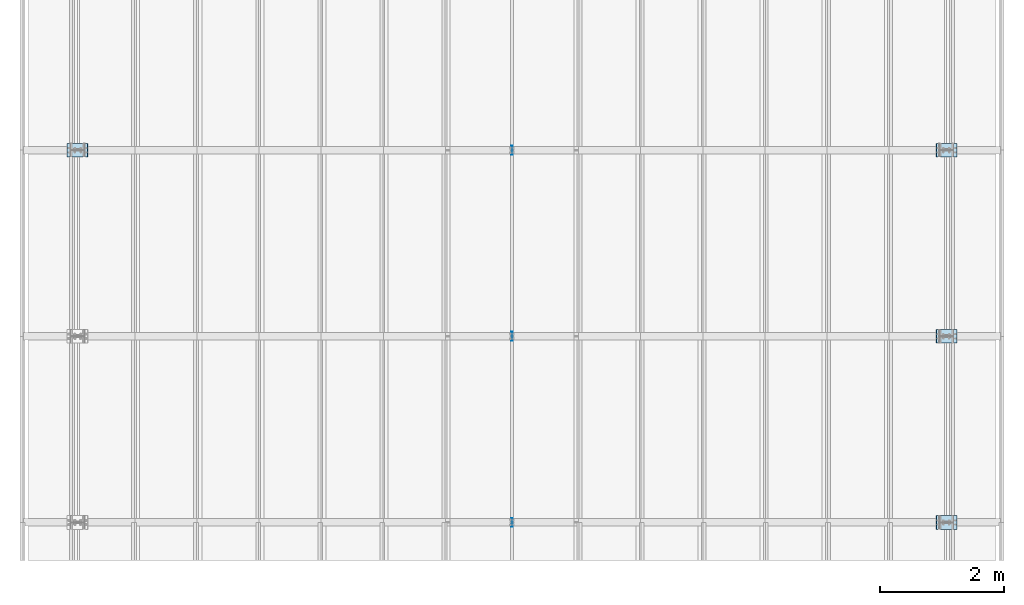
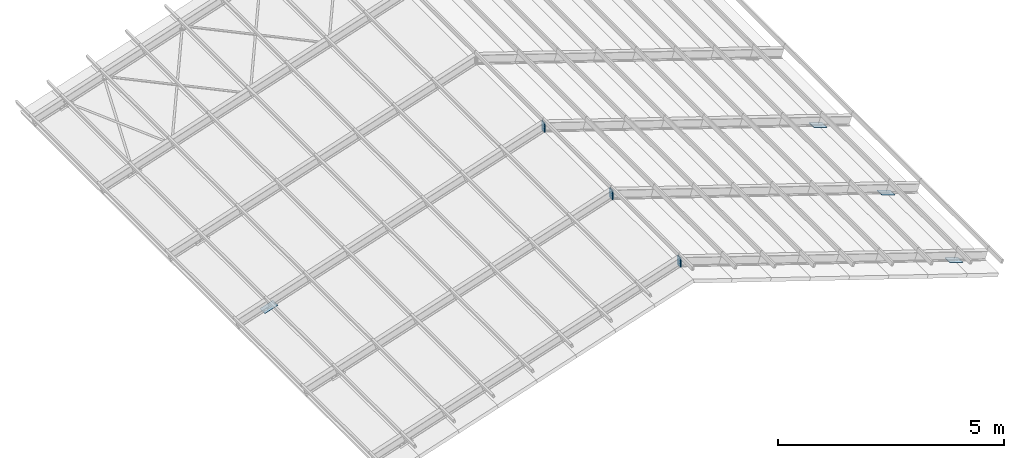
# One storey, part 5 of 53: 10 plates.
"""IFC4 building model written with IfcOpenShell, lengths in metres."""

import ifcopenshell
import ifcopenshell.guid

model = None  # the IFC model being written
_history = None  # IfcOwnerHistory: only IFC2X3 demands one
_inside = {}  # id of a spatial element -> (the spatial element, [elements in it])
_under = {}  # id of a project, library or spatial element -> (it, [spatial elements below it])
_declared = {}  # id of a project -> (the project, [libraries it declares])
_typed = {}  # id of a type object -> (the type object, [elements of that type])
_made_of = {}  # id of a material, layer set ... -> (it, [elements and type objects made of it])


def new_model(schema):
    """Start an empty IFC model of exactly this schema.

    Asked for "IFC4X3", IfcOpenShell would pick the latest addendum, in which some entities
    have other attributes; the version numbers below select the first issue.
    IFC2X3 requires an IfcOwnerHistory on every rooted entity: one is made here for all.
    """
    global model, _history
    if schema == "IFC4X3":
        model = ifcopenshell.file(schema_version=(4, 3, 0, 0))
    else:
        model = ifcopenshell.file(schema=schema)
    _inside.clear()
    _under.clear()
    _declared.clear()
    _typed.clear()
    _made_of.clear()
    _history = None
    if model.schema == "IFC2X3":
        org = make("IfcOrganization", Name="unknown")
        user = make(
            "IfcPersonAndOrganization",
            ThePerson=make("IfcPerson", FamilyName="unknown"),
            TheOrganization=org,
        )
        app = make(
            "IfcApplication",
            ApplicationDeveloper=org,
            Version="unknown",
            ApplicationFullName="unknown",
            ApplicationIdentifier="unknown",
        )
        _history = make(
            "IfcOwnerHistory",
            OwningUser=user,
            OwningApplication=app,
            ChangeAction="ADDED",
            CreationDate=0,
        )
    return model


def make(cls, **values):
    """One entity of the class cls with the attributes given. An attribute that is None is left unset."""
    return model.create_entity(
        cls, **{name: value for name, value in values.items() if value is not None}
    )


def rooted(cls, **values):
    """An entity with a GlobalId (a new one), such as an element, a storey or a relation."""
    return make(cls, GlobalId=ifcopenshell.guid.new(), OwnerHistory=_history, **values)


def si_unit(unit_type, name, prefix=None):
    """IfcSIUnit, for example si_unit("LENGTHUNIT", "METRE", prefix="MILLI")."""
    return make("IfcSIUnit", UnitType=unit_type, Prefix=prefix, Name=name)


def assignment(units):
    """IfcUnitAssignment: the units of a project."""
    return None if units is None else make("IfcUnitAssignment", Units=units)


def point(xyz):
    """IfcCartesianPoint."""
    return None if xyz is None else make("IfcCartesianPoint", Coordinates=xyz)


def direction(xyz):
    """IfcDirection."""
    return None if xyz is None else make("IfcDirection", DirectionRatios=xyz)


def frame(location, z_axis=None, x_axis=None):
    """IfcAxis2Placement3D, a coordinate frame: its origin and axes. An axis left out is left unset."""
    return make(
        "IfcAxis2Placement3D",
        Location=point(location),
        Axis=direction(z_axis),
        RefDirection=direction(x_axis),
    )


def origin_with_axes():
    """The frame at (0, 0, 0) with the z axis (0, 0, 1) and the x axis (1, 0, 0) written out."""
    return frame((0.0, 0.0, 0.0), z_axis=(0.0, 0.0, 1.0), x_axis=(1.0, 0.0, 0.0))


def place(relative_to, where):
    """IfcLocalPlacement: puts the frame where relative to a parent placement (None: the world)."""
    return make(
        "IfcLocalPlacement", PlacementRelTo=relative_to, RelativePlacement=where
    )


def context(
    kind, dimensions, precision=None, world=None, true_north=None, identifier=None
):
    """IfcGeometricRepresentationContext, for example the 3D "Model" context."""
    return make(
        "IfcGeometricRepresentationContext",
        ContextIdentifier=identifier,
        ContextType=kind,
        CoordinateSpaceDimension=dimensions,
        Precision=precision,
        WorldCoordinateSystem=world,
        TrueNorth=true_north,
    )


def project(units=None, contexts=None):
    """IfcProject with its units and contexts."""
    return rooted(
        "IfcProject",
        Name="project",
        RepresentationContexts=contexts,
        UnitsInContext=assignment(units),
    )


def spatial(cls, under=None, at=None, **own):
    """A site, building, storey or space (cls), placed at a placement, below another one or the project."""
    s = rooted(cls, ObjectPlacement=at, **own)
    if under is not None:
        _under.setdefault(under.id(), (under, []))[1].append(s)
    return s


def polyline(points):
    """IfcPolyline through the points."""
    return make("IfcPolyline", Points=[point(p) for p in points])


def outline(outer, holes=None, kind="AREA"):
    """IfcArbitraryClosedProfileDef: a profile drawn as a closed curve; with holes, ...WithVoids."""
    if holes is None:
        return make("IfcArbitraryClosedProfileDef", ProfileType=kind, OuterCurve=outer)
    return make(
        "IfcArbitraryProfileDefWithVoids",
        ProfileType=kind,
        OuterCurve=outer,
        InnerCurves=holes,
    )


def extrude(swept, where, along, depth):
    """IfcExtrudedAreaSolid: the profile swept, set in the frame where, extruded along a direction by depth."""
    return make(
        "IfcExtrudedAreaSolid",
        SweptArea=swept,
        Position=where,
        ExtrudedDirection=direction(along),
        Depth=depth,
    )


def shape(context_of_items, identifier, shape_type, items):
    """IfcShapeRepresentation: the items that make up one representation, for example the "Body"."""
    return make(
        "IfcShapeRepresentation",
        ContextOfItems=context_of_items,
        RepresentationIdentifier=identifier,
        RepresentationType=shape_type,
        Items=items,
    )


def made_of(thing, what):
    """Note that an element or type object is made of a material, layer set ...; save() writes the relation."""
    if what is not None:
        _made_of.setdefault(what.id(), (what, []))[1].append(thing)
    return thing


def type_object(cls, material=None, **own):
    """A type object (cls), such as IfcWallType, which elements share."""
    return made_of(rooted(cls, **own), material)


def element(
    cls,
    number,
    at=None,
    inside=None,
    cuts=None,
    type_object=None,
    material=None,
    context=None,
    identifier="Body",
    shape_type=None,
    held_by="IfcProductDefinitionShape",
    body=None,
    shapes=None,
    **own,
):
    """One element of the class cls, such as IfcWall. Its Tag is "e" and its number.

    at: its placement. inside: the storey or other place that contains it. cuts: it is an
    opening in that element (IfcRelVoidsElement). A single representation is given by context,
    identifier, shape_type and body (its items); several are given by shapes. held_by: the class
    of the entity that holds the representations. save() writes the other relations.
    """
    e = rooted(cls, Tag="e%d" % number, ObjectPlacement=at, **own)
    if body is not None:
        shapes = [shape(context, identifier, shape_type, body)]
    if shapes is not None:
        e.Representation = make(held_by, Representations=shapes)
    if inside is not None:
        _inside.setdefault(inside.id(), (inside, []))[1].append(e)
    if cuts is not None:
        rooted(
            "IfcRelVoidsElement", RelatingBuildingElement=cuts, RelatedOpeningElement=e
        )
    if type_object is not None:
        _typed.setdefault(type_object.id(), (type_object, []))[1].append(e)
    return made_of(e, material)


def aggregate(whole, parts):
    """IfcRelAggregates: a whole, such as a stair, and the parts it consists of."""
    return rooted("IfcRelAggregates", RelatingObject=whole, RelatedObjects=parts)


def save(model, path):
    """Write the relations noted so far, then the file.

    IfcRelAggregates (storeys below a building ...), IfcRelContainedInSpatialStructure (elements
    in a storey), IfcRelDefinesByType, IfcRelAssociatesMaterial and IfcRelDeclares: one each for
    every whole, place, type object, material and project.
    """
    for whole, parts in _under.values():
        aggregate(whole, parts)
    for where, things in _inside.values():
        rooted(
            "IfcRelContainedInSpatialStructure",
            RelatedElements=things,
            RelatingStructure=where,
        )
    for kind, things in _typed.values():
        rooted("IfcRelDefinesByType", RelatedObjects=things, RelatingType=kind)
    for what, things in _made_of.values():
        rooted("IfcRelAssociatesMaterial", RelatedObjects=things, RelatingMaterial=what)
    for by, libraries in _declared.values():
        rooted("IfcRelDeclares", RelatingContext=by, RelatedDefinitions=libraries)
    model.write(path)


model = new_model("IFC4")

# Units and contexts
model_context = context("Model", 3, precision=1e-05, world=origin_with_axes())
ifc_project = project(units=[si_unit("LENGTHUNIT", "METRE"), si_unit("AREAUNIT", "SQUARE_METRE"), si_unit("VOLUMEUNIT", "CUBIC_METRE"), si_unit("MASSUNIT", "GRAM", prefix="KILO"), si_unit("TIMEUNIT", "SECOND"), si_unit("PLANEANGLEUNIT", "RADIAN"), si_unit("SOLIDANGLEUNIT", "STERADIAN"), si_unit("THERMODYNAMICTEMPERATUREUNIT", "DEGREE_CELSIUS")], contexts=[model_context])

# Site, building, storey
placement_1 = place(None, origin_with_axes())
site = spatial("IfcSite", under=ifc_project, at=placement_1, Name="Italia", CompositionType="ELEMENT")
building = spatial("IfcBuilding", under=site, at=placement_1, Name="Capannone", CompositionType="ELEMENT")
storey_placement = place(None, frame((0.0, 0.0, 5.550000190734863), z_axis=(0.0, 0.0, 1.0), x_axis=(1.0, 0.0, 0.0)))
storey = spatial("IfcBuildingStorey", under=building, at=storey_placement, Name="Storey 1", CompositionType="ELEMENT", Elevation=5.550000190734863)

# Plates
plate_type_1 = type_object("IfcPlateType", Name="Collegamenti -1142_-1128 -1143_-1130 -1144_-1132 -1145_-1134 -1146_-1136 -1147_-1138", PredefinedType="SHEET")
placement_2 = place(placement_1, origin_with_axes())
plate_1_placement = place(placement_2, origin_with_axes())
element("IfcPlate", 1, at=plate_1_placement, inside=storey, type_object=plate_type_1, Name="Collegamenti -1142_-1128 -1143_-1130 -1144_-1132 -1145_-1134 -1146_-1136 -1147_-1138", context=model_context, shape_type="SweptSolid", body=[
    extrude(outline(polyline([(0.0, 0.0), (-0.14, 0.0), (-0.14, 0.25262), (0.0, 0.25262), (0.0, 0.0)])), frame((7.015, -0.07, 7.84507), z_axis=(-1.0, 0.0, 0.0), x_axis=(0.0, -1.0, 0.0)), (0.0, 0.0, 1.0), 0.0149999),
])
plate_type_2 = type_object("IfcPlateType", Name="Collegamenti -1142_-1128 -1143_-1130 -1144_-1132 -1145_-1134 -1146_-1136 -1147_-1138", PredefinedType="SHEET")
plate_2_placement = place(placement_2, origin_with_axes())
element("IfcPlate", 2, at=plate_2_placement, inside=storey, type_object=plate_type_2, Name="Collegamenti -1142_-1128 -1143_-1130 -1144_-1132 -1145_-1134 -1146_-1136 -1147_-1138", context=model_context, shape_type="SweptSolid", body=[
    extrude(outline(polyline([(0.0, 0.0), (-0.14, 0.0), (-0.14, 0.252625), (0.0, 0.252625), (0.0, 0.0)])), frame((7.0, -0.07, 7.84507), z_axis=(-1.0, 0.0, 0.0), x_axis=(0.0, -1.0, 0.0)), (0.0, 0.0, 1.0), 0.0149999),
])
plate_type_3 = type_object("IfcPlateType", Name="Collegamenti -1142_-1128 -1143_-1130 -1144_-1132 -1145_-1134 -1146_-1136 -1147_-1138", PredefinedType="SHEET")
plate_3_placement = place(placement_2, origin_with_axes())
element("IfcPlate", 3, at=plate_3_placement, inside=storey, type_object=plate_type_3, Name="Collegamenti -1142_-1128 -1143_-1130 -1144_-1132 -1145_-1134 -1146_-1136 -1147_-1138", context=model_context, shape_type="SweptSolid", body=[
    extrude(outline(polyline([(0.0, 0.0), (-0.14, 0.0), (-0.14, 0.25262), (0.0, 0.25262), (0.0, 0.0)])), frame((7.015, 2.93, 7.84507), z_axis=(-1.0, 0.0, -3.1788415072e-05), x_axis=(0.0, -1.0, 0.0)), (0.0, 0.0, 1.0), 0.0150003),
])
plate_type_4 = type_object("IfcPlateType", Name="Collegamenti -1142_-1128 -1143_-1130 -1144_-1132 -1145_-1134 -1146_-1136 -1147_-1138", PredefinedType="SHEET")
plate_4_placement = place(placement_2, origin_with_axes())
element("IfcPlate", 4, at=plate_4_placement, inside=storey, type_object=plate_type_4, Name="Collegamenti -1142_-1128 -1143_-1130 -1144_-1132 -1145_-1134 -1146_-1136 -1147_-1138", context=model_context, shape_type="SweptSolid", body=[
    extrude(outline(polyline([(0.0, 0.0), (-0.14, 0.0), (-0.14, 0.252625), (0.0, 0.252625), (0.0, 0.0)])), frame((7.0, 2.93, 7.84507), z_axis=(-1.0, 0.0, 0.0), x_axis=(0.0, -1.0, 0.0)), (0.0, 0.0, 1.0), 0.0150003),
])
plate_type_5 = type_object("IfcPlateType", Name="Collegamenti -1142_-1128 -1143_-1130 -1144_-1132 -1145_-1134 -1146_-1136 -1147_-1138", PredefinedType="SHEET")
plate_5_placement = place(placement_2, origin_with_axes())
element("IfcPlate", 5, at=plate_5_placement, inside=storey, type_object=plate_type_5, Name="Collegamenti -1142_-1128 -1143_-1130 -1144_-1132 -1145_-1134 -1146_-1136 -1147_-1138", context=model_context, shape_type="SweptSolid", body=[
    extrude(outline(polyline([(0.0, 0.0), (-0.14, 0.0), (-0.14, 0.25262), (0.0, 0.25262), (0.0, 0.0)])), frame((7.015, 5.93, 7.84507), z_axis=(-1.0, 0.0, -3.1788415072e-05), x_axis=(0.0, -1.0, 0.0)), (0.0, 0.0, 1.0), 0.0150003),
])
plate_type_6 = type_object("IfcPlateType", Name="Collegamenti -1142_-1128 -1143_-1130 -1144_-1132 -1145_-1134 -1146_-1136 -1147_-1138", PredefinedType="SHEET")
plate_6_placement = place(placement_2, origin_with_axes())
element("IfcPlate", 6, at=plate_6_placement, inside=storey, type_object=plate_type_6, Name="Collegamenti -1142_-1128 -1143_-1130 -1144_-1132 -1145_-1134 -1146_-1136 -1147_-1138", context=model_context, shape_type="SweptSolid", body=[
    extrude(outline(polyline([(0.0, 0.0), (-0.14, 0.0), (-0.14, 0.252625), (0.0, 0.252625), (0.0, 0.0)])), frame((7.0, 5.93, 7.84507), z_axis=(-1.0, 0.0, 0.0), x_axis=(0.0, -1.0, 0.0)), (0.0, 0.0, 1.0), 0.0150003),
])
plate_type_7 = type_object("IfcPlateType", Name="Collegamenti 0101_0001 0103_0003 0105_0005 0107_0007 0109_0009 0111_0011", PredefinedType="SHEET")
plate_7_placement = place(placement_2, origin_with_axes())
element("IfcPlate", 7, at=plate_7_placement, inside=storey, type_object=plate_type_7, Name="Collegamenti 0101_0001 0103_0003 0105_0005 0107_0007 0109_0009 0111_0011", context=model_context, shape_type="SweptSolid", body=[
    extrude(outline(polyline([(0.0, 0.0), (0.22, 0.0), (0.22, -0.34504), (0.0, -0.34504), (0.0, 0.0)])), frame((0.163898, 6.11, 5.58806), z_axis=(-0.312147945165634, 0.0, 0.950033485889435), x_axis=(0.0, -1.0, 0.0)), (0.0, 0.0, 1.0), 0.0150003),
])
plate_type_8 = type_object("IfcPlateType", Name="Collegamenti 0102_0002 0104_0004 0106_0006 0108_0008 0110_0010 0112_0012", PredefinedType="SHEET")
plate_8_placement = place(placement_2, origin_with_axes())
element("IfcPlate", 8, at=plate_8_placement, inside=storey, type_object=plate_type_8, Name="Collegamenti 0102_0002 0104_0004 0106_0006 0108_0008 0110_0010 0112_0012", context=model_context, shape_type="SweptSolid", body=[
    extrude(outline(polyline([(0.0, 0.0), (-0.22, 0.0), (-0.22, 0.34504), (0.0, 0.34504), (0.0, 0.0)])), frame((14.1639, 0.11, 5.48036), z_axis=(0.3121717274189, 0.0, 0.950025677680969), x_axis=(0.0, 1.0, 0.0)), (0.0, 0.0, 1.0), 0.0149999),
])
plate_type_9 = type_object("IfcPlateType", Name="Collegamenti 0102_0002 0104_0004 0106_0006 0108_0008 0110_0010 0112_0012", PredefinedType="SHEET")
plate_9_placement = place(placement_2, origin_with_axes())
element("IfcPlate", 9, at=plate_9_placement, inside=storey, type_object=plate_type_9, Name="Collegamenti 0102_0002 0104_0004 0106_0006 0108_0008 0110_0010 0112_0012", context=model_context, shape_type="SweptSolid", body=[
    extrude(outline(polyline([(0.0, 0.0), (-0.22, 0.0), (-0.22, 0.34504), (0.0, 0.34504), (0.0, 0.0)])), frame((14.1639, 3.11, 5.48036), z_axis=(0.3121717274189, 0.0, 0.950025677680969), x_axis=(0.0, 1.0, 0.0)), (0.0, 0.0, 1.0), 0.0149999),
])
plate_type_10 = type_object("IfcPlateType", Name="Collegamenti 0102_0002 0104_0004 0106_0006 0108_0008 0110_0010 0112_0012", PredefinedType="SHEET")
plate_10_placement = place(placement_2, origin_with_axes())
element("IfcPlate", 10, at=plate_10_placement, inside=storey, type_object=plate_type_10, Name="Collegamenti 0102_0002 0104_0004 0106_0006 0108_0008 0110_0010 0112_0012", context=model_context, shape_type="SweptSolid", body=[
    extrude(outline(polyline([(0.0, 0.0), (-0.22, 0.0), (-0.22, 0.34504), (0.0, 0.34504), (0.0, 0.0)])), frame((14.1639, 6.11, 5.48036), z_axis=(0.3121717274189, 0.0, 0.950025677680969), x_axis=(0.0, 1.0, 0.0)), (0.0, 0.0, 1.0), 0.0149999),
])

save(model, "model.ifc")
